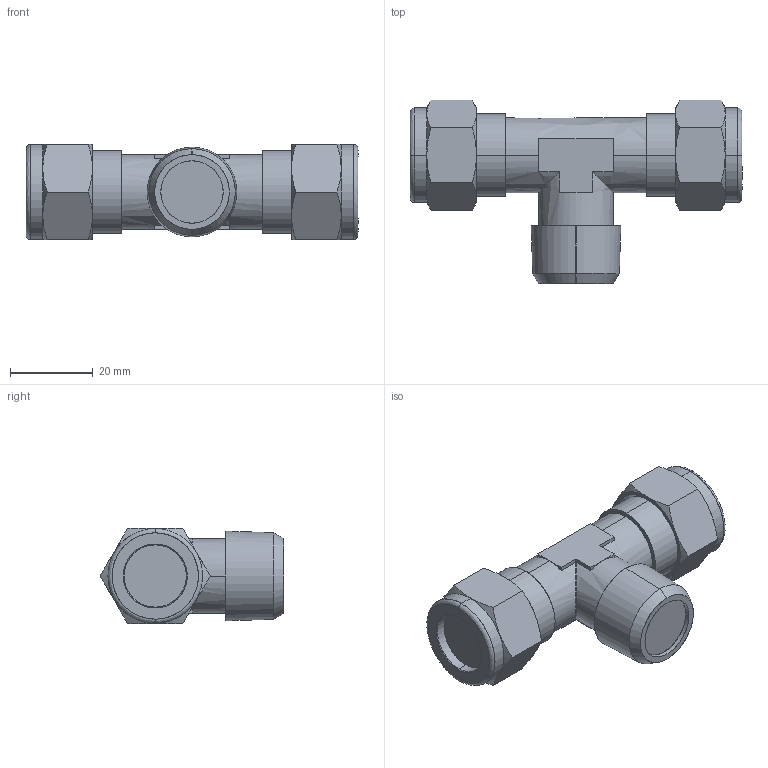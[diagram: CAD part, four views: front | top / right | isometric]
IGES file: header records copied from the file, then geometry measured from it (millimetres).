
Start section: SolidWorks IGES file using analytic representation for surfaces
Global section: file name: K:\Disegni Esecutivi\Serie 10000\Complessivi_10000\10220\10220_iges\1022000015A.IGS; native system: SolidWorks 2008; preprocessor: SolidWorks 2008; author: cad05; date: 081219.083938; units: millimetre
Bounding box: 80 x 44.28 x 23 mm (x, y, z)
Surface area: 8715.6 mm2 (no closed solid volume)
Topology: 0 solids, 0 shells, 108 faces, 1574 edges, 1574 vertices
Faces by surface type: bspline 57, revolution 51
